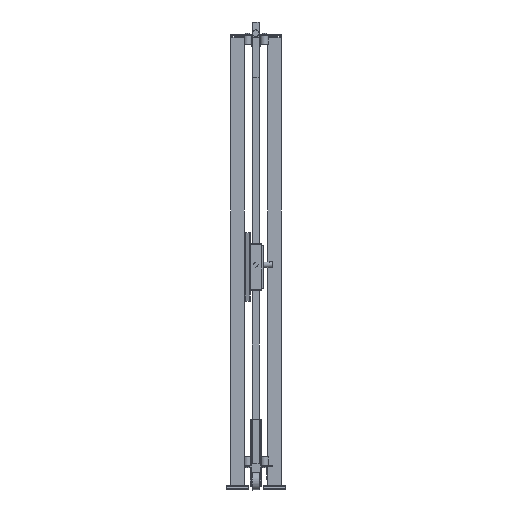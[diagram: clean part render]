
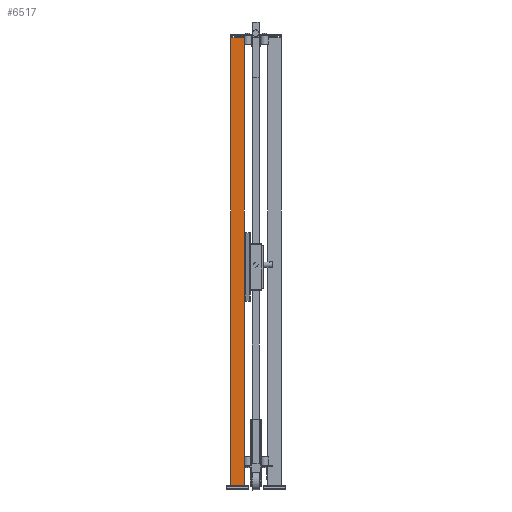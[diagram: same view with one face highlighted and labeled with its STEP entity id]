
A CAD part, left-side view. The second image highlights one B-rep face of the part: STEP entity #6517.
In plain terms, the highlighted planar face has unit normal (-1, 0, 0) as drawn and (0, 1, 0) by its records, which use the part's own axes.
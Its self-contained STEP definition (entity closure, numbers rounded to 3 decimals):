
#633=FACE_OUTER_BOUND('',#1159,.T.);
#1159=EDGE_LOOP('',(#4135,#4136,#4137,#4138));
#1763=VERTEX_POINT('',#14811);
#1764=VERTEX_POINT('',#14813);
#1766=VERTEX_POINT('',#14819);
#1769=VERTEX_POINT('',#14824);
#2653=EDGE_CURVE('',#1763,#1764,#7983,.T.);
#2659=EDGE_CURVE('',#1769,#1766,#7989,.T.);
#2662=EDGE_CURVE('',#1764,#1769,#7992,.T.);
#2663=EDGE_CURVE('',#1763,#1766,#7993,.T.);
#4135=ORIENTED_EDGE('',*,*,#2663,.T.);
#4136=ORIENTED_EDGE('',*,*,#2659,.F.);
#4137=ORIENTED_EDGE('',*,*,#2662,.F.);
#4138=ORIENTED_EDGE('',*,*,#2653,.F.);
#6061=PLANE('',#10152);
#6517=ADVANCED_FACE('',(#633),#6061,.F.);
#7983=LINE('',#14814,#9225);
#7989=LINE('',#14826,#9231);
#7992=LINE('',#14831,#9234);
#7993=LINE('',#14833,#9235);
#9225=VECTOR('',#11525,1.);
#9231=VECTOR('',#11533,1.);
#9234=VECTOR('',#11540,1.);
#9235=VECTOR('',#11543,1.);
#10152=AXIS2_PLACEMENT_3D('',#14832,#11541,#11542);
#11525=DIRECTION('',(-1.,0.,0.));
#11533=DIRECTION('',(1.,0.,0.));
#11540=DIRECTION('',(0.,0.,-1.));
#11541=DIRECTION('center_axis',(0.,-1.,0.));
#11542=DIRECTION('ref_axis',(0.,0.,-1.));
#11543=DIRECTION('',(0.,0.,-1.));
#14811=CARTESIAN_POINT('',(30.,30.,2020.));
#14813=CARTESIAN_POINT('',(-30.,30.,2020.));
#14814=CARTESIAN_POINT('',(0.,30.,2020.));
#14819=CARTESIAN_POINT('',(30.,30.,20.));
#14824=CARTESIAN_POINT('',(-30.,30.,20.));
#14826=CARTESIAN_POINT('',(0.,30.,20.));
#14831=CARTESIAN_POINT('',(-30.,30.,1020.));
#14832=CARTESIAN_POINT('Origin',(0.,30.,
1020.));
#14833=CARTESIAN_POINT('',(30.,30.,1020.));
